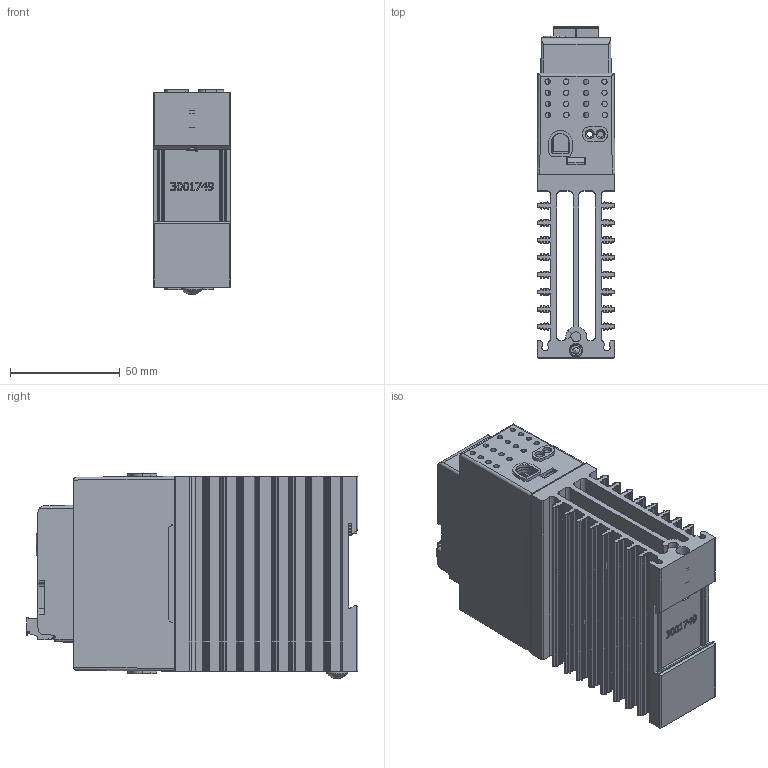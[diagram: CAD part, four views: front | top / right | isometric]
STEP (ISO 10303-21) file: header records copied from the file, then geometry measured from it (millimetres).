
FILE_DESCRIPTION(/* description */ (''),/* implementation_level */ '2;1');
FILE_NAME(/* name */ '1-phase Analog 32A.stp',/* time_stamp */ '2024-10-29T14:17:33-05:00',/* author */ ('ErikG'),/* organization */ (''),/* preprocessor_version */ 'ST-DEVELOPER v20',/* originating_system */ 'Autodesk Inventor 2025',/* authorisation */ '');
FILE_SCHEMA (('AUTOMOTIVE_DESIGN { 1 0 10303 214 3 1 1 }'));
Products named in the file (20): 3001631e; 3001757; 1001578K; P1; fci 6 pin header OQ06120000J0G; fci 6 pin headerOQ06120000J0G half 1; fci 5 pin header OQ05120000J0G half 2; fci 6 pin connector TS06110B00J0G; fci 5 pin connector TS05110B00J0G LEFT HALF; fci 5 pin connector TS05110B00J0G RIGHT HALF; P4; usb-c31-s-vt-cs4-bk-pp-t-r-model ADAMTECH; 3001759; 3001760; 3001755; 3001756; 3001749; 0060702-1032-0375; 0060783-0610-010.ipt; spring
Assembly tree (20 placements, depth 6):
  3001631e
    3001757
    1001578K
      P1
        fci 6 pin header OQ06120000J0G
          fci 6 pin headerOQ06120000J0G half 1
          fci 5 pin header OQ05120000J0G half 2
          fci 6 pin connector TS06110B00J0G
            fci 5 pin connector TS05110B00J0G LEFT HALF
            fci 5 pin connector TS05110B00J0G RIGHT HALF
      P4
        usb-c31-s-vt-cs4-bk-pp-t-r-model ADAMTECH
    3001759
    3001760  x2
    3001755
    3001756
    3001749
    0060702-1032-0375
    0060783-0610-010.ipt
    spring
Bounding box: 35.56 x 151.53 x 93.5 mm (x, y, z)
Volume: 159832 mm3; surface area: 156539.9 mm2
Topology: 16 solids, 106 shells, 5039 faces, 13806 edges, 9053 vertices
Faces by surface type: plane 3601, cylinder 1053, cone 204, bspline 124, torus 54, sphere 3
Full cylindrical faces by diameter (mm): 0.254 x1, 0.45 x2, 0.55 x2, 0.65 x2, 1 x2, 2.3 x12, 2.54 x2, 2.642 x3, 2.95 x6, 3.277 x2, 4.826 x1, 4.917 x1, 6 x1, 6.172 x1, 7.976 x1, 9.474 x1
Entity records: 173417 total; most frequent: CARTESIAN_POINT 45046, ORIENTED_EDGE 27354, DIRECTION 25491, EDGE_CURVE 13677, LINE 10181, VECTOR 10181, VERTEX_POINT 8973, AXIS2_PLACEMENT_3D 7655
